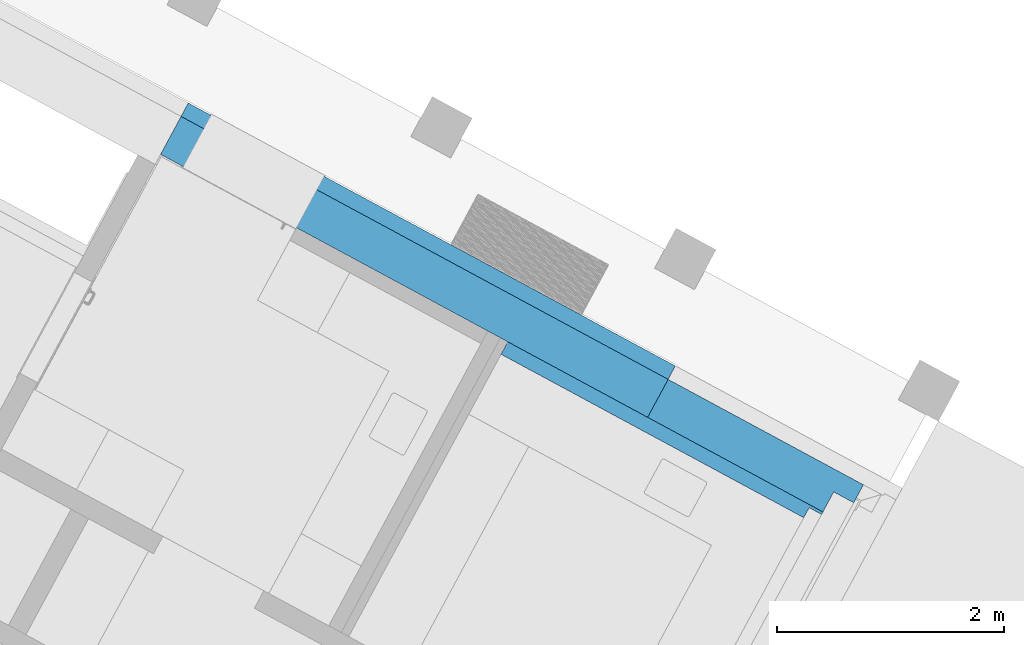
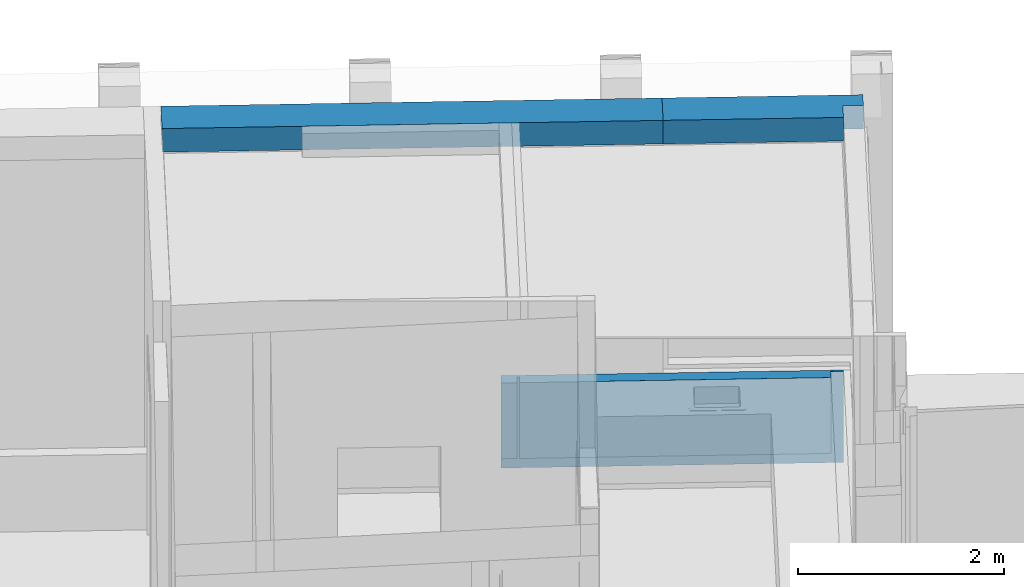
# One storey, part 22 of 52: 3 walls.
"""IFC2X3 building model written with IfcOpenShell, lengths in metres."""

from ifc_helpers import new_model, entity, si_unit, converted_unit, derived_unit, money_unit, direction, frame, origin_with_axes, place, context, subcontext, project, spatial, faceted_brep, material, material_list, type_object, element, save


model = new_model("IFC2X3")

# Units and contexts
model_context = context("Model", 3, precision=1e-05, world=origin_with_axes(), true_north=direction((0.0, 1.0)))
body_context = subcontext(model_context, "Body", "Model", "MODEL_VIEW")
ifc_project = project(units=[si_unit("LENGTHUNIT", "METRE"), si_unit("AREAUNIT", "SQUARE_METRE"), si_unit("VOLUMEUNIT", "CUBIC_METRE"), converted_unit("PLANEANGLEUNIT", "DEGREE", entity("IfcPlaneAngleMeasure", 0.0174532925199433), si_unit("PLANEANGLEUNIT", "RADIAN"), dimensions=[0, 0, 0, 0, 0, 0, 0]), money_unit("EUR"), converted_unit("TIMEUNIT", "Year", entity("IfcTimeMeasure", 31556926.0), si_unit("TIMEUNIT", "SECOND"), dimensions=[0, 0, 1, 0, 0, 0, 0]), si_unit("MASSUNIT", "GRAM", prefix="KILO"), si_unit("THERMODYNAMICTEMPERATUREUNIT", "DEGREE_CELSIUS"), si_unit("LUMINOUSINTENSITYUNIT", "LUMEN"), si_unit("ENERGYUNIT", "JOULE", prefix="MEGA"), derived_unit("THERMALCONDUCTANCEUNIT", [(si_unit("POWERUNIT", "WATT"), 1), (si_unit("LENGTHUNIT", "METRE"), -1), (si_unit("THERMODYNAMICTEMPERATUREUNIT", "KELVIN"), -1)]), derived_unit("SPECIFICHEATCAPACITYUNIT", [(si_unit("ENERGYUNIT", "JOULE"), 1), (si_unit("MASSUNIT", "GRAM", prefix="KILO"), -1), (si_unit("THERMODYNAMICTEMPERATUREUNIT", "KELVIN"), -1)]), derived_unit("MASSDENSITYUNIT", [(si_unit("MASSUNIT", "GRAM", prefix="KILO"), 1), (si_unit("VOLUMEUNIT", "CUBIC_METRE"), -1)])], contexts=[model_context])

# Site, building, storey
site_placement = place(None, frame((-3.949935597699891, 1.740105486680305, 0.0), z_axis=(0.0, 0.0, 1.0), x_axis=(0.8799804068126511, -0.475009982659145, 0.0)))
site = spatial("IfcSite", under=ifc_project, at=site_placement, Name="Gelände", CompositionType="ELEMENT")
building_placement = place(site_placement, origin_with_axes())
building = spatial("IfcBuilding", under=site, at=building_placement, Name="Gebäude", CompositionType="ELEMENT")
storey_placement = place(building_placement, origin_with_axes())
storey = spatial("IfcBuildingStorey", under=building, at=storey_placement, Name="Erdgeschoss", CompositionType="ELEMENT", Elevation=0.0)

# Walls
ifc_material_1 = material(Name="_SIWH - MW Vormauerziegel")
ifc_material_2 = material(Name="_SIWH - Luftschicht vertikal")
ifc_material_3 = material(Name="_SIWH - Dämmung, weich Mineralwolle")
ifc_material_4 = material(Name="_SIWH - Beton, Stahlbeton")
ifc_material_list_1 = material_list([ifc_material_1, ifc_material_2, ifc_material_3, ifc_material_4])
wall_type_1 = type_object("IfcWallType", Name="_SIWH - Sturz Außenwand EG - Stb. 20cm 515 x 280", PredefinedType="NOTDEFINED")
wall_1_placement = place(storey_placement, frame((10.53639656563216, 19.20029480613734, 3.900000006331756), z_axis=(0.0, 0.0, 1.0), x_axis=(0.9999999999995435, -9.555231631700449e-07, 0.0)))
element("IfcWall", 1, at=wall_1_placement, inside=storey, type_object=wall_type_1, material=ifc_material_list_1, Name="A-Wand020", context=body_context, shape_type="Brep", body=[
    faceted_brep([(4.876073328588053, 0.3149999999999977, -0.2000000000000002), (4.876073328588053, 0.3149999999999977, -0.2800000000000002), (0.0, 0.3149999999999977, -0.2800000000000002), (0.0, 0.3149999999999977, -0.2000000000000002), (4.876073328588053, 0.1999999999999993, -0.2000000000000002), (4.876073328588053, 0.1999999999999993, -0.2800000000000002), (0.0, 0.1999999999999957, -0.2800000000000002), (0.0, 0.1999999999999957, -0.2000000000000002)], [[[0, 1, 2, 3]], [[0, 4, 5, 1]], [[1, 5, 6, 2]], [[3, 2, 6, 7]], [[4, 0, 3, 7]], [[5, 4, 7, 6]]]),
    faceted_brep([(4.876073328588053, 0.1800000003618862, -0.1999999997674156), (4.876073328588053, 0.1999999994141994, -0.1999999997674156), (0.0, 0.1999999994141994, -0.1999999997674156), (0.0, 0.1800000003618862, -0.1999999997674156), (4.876073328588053, 0.1800000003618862, -0.2800000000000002), (4.876073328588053, 0.1999999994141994, -0.2800000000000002), (0.0, 0.1999999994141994, -0.2800000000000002), (0.0, 0.1800000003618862, -0.2800000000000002)], [[[0, 1, 2, 3]], [[0, 4, 5, 1]], [[1, 5, 6, 2]], [[3, 2, 6, 7]], [[4, 0, 3, 7]], [[5, 4, 7, 6]]]),
    faceted_brep([(4.876073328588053, 0.1800000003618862, -0.1999999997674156), (4.876073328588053, 0.1799999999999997, -0.2800000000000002), (0.0, 0.1799999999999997, -0.2800000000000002), (0.0, 0.1800000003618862, -0.1999999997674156), (4.876073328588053, 0.1799999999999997, -2.682212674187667e-09), (4.876073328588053, -2.980229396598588e-10, -2.682212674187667e-09), (4.876073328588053, -2.980229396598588e-10, -0.2800000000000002), (0.0, -2.980229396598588e-10, -0.2800000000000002), (0.0, -2.980229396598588e-10, -2.682212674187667e-09), (0.0, 0.1799999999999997, -2.682212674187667e-09)], [[[0, 1, 2, 3]], [[0, 4, 5, 6, 1]], [[1, 6, 7, 2]], [[3, 2, 7, 8, 9]], [[4, 0, 3, 9]], [[5, 4, 9, 8]], [[6, 5, 8, 7]]]),
    faceted_brep([(4.876073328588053, 0.0, 0.0), (4.876073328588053, 0.0, -0.2800000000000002), (0.0, 0.0, -0.2800000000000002), (0.0, 0.0, 0.0), (4.876073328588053, -0.2000000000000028, 0.0), (4.876073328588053, -0.2000000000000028, -0.2800000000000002), (0.0, -0.2000000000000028, -0.2800000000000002), (0.0, -0.2000000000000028, 0.0)], [[[0, 1, 2, 3]], [[0, 4, 5, 1]], [[1, 5, 6, 2]], [[3, 2, 6, 7]], [[4, 0, 3, 7]], [[5, 4, 7, 6]]]),
])
ifc_material_5 = material(Name="_SIWH - Gipskarton")
ifc_material_6 = material(Name="_SIWH - Installationswand, raumhoch")
ifc_material_list_2 = material_list([ifc_material_5, ifc_material_5, ifc_material_6])
wall_type_2 = type_object("IfcWallType", Name="_SIWH - WI | Vorsatz-GK 2-lagig | 12,5cm 125", PredefinedType="NOTDEFINED")
wall_2_placement = place(storey_placement, frame((13.83249488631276, 19.00029165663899, -0.1800000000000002), z_axis=(0.0, 0.0, 1.0), x_axis=(0.9999999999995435, -9.55523173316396e-07, 0.0)))
element("IfcWall", 2, at=wall_2_placement, inside=storey, type_object=wall_type_2, material=ifc_material_list_2, Name="L-Wand035", context=body_context, shape_type="Brep", body=[
    faceted_brep([(3.33498207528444, 0.0, 1.08), (0.0, 0.0, 1.08), (0.0, -0.01249999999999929, 1.08), (3.334982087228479, -0.01249999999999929, 1.08), (3.33498207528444, 0.0, 0.0), (0.0, 0.0, 0.0), (0.0, -0.01249999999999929, 0.0), (3.334982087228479, -0.01249999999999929, 0.0)], [[[0, 1, 2, 3]], [[4, 5, 1, 0]], [[2, 1, 5, 6]], [[3, 2, 6, 7]], [[3, 7, 4, 0]], [[7, 6, 5, 4]]]),
    faceted_brep([(3.334982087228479, -0.01249999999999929, 1.08), (0.0, -0.01249999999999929, 1.08), (0.0, -0.02499999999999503, 1.08), (3.334982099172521, -0.02499999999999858, 1.08), (3.334982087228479, -0.01249999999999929, 0.0), (0.0, -0.01249999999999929, 0.0), (0.0, -0.02499999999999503, 0.0), (3.334982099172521, -0.02499999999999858, 0.0)], [[[0, 1, 2, 3]], [[4, 5, 1, 0]], [[2, 1, 5, 6]], [[3, 2, 6, 7]], [[3, 7, 4, 0]], [[7, 6, 5, 4]]]),
    faceted_brep([(0.1552404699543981, -0.125, 0.1800000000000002), (0.1552403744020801, -0.02499999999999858, 0.1800000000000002), (0.1552403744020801, -0.02499999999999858, 1.08), (0.1552404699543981, -0.125, 1.08), (0.0, -0.02499999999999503, 0.1800000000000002), (0.0, -0.1249999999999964, 0.1800000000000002), (0.0, -0.02499999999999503, 1.08), (0.0, -0.1249999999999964, 1.08)], [[[0, 1, 2, 3]], [[4, 1, 0, 5]], [[1, 4, 6, 2]], [[3, 2, 6, 7]], [[5, 0, 3, 7]], [[4, 5, 7, 6]]]),
    faceted_brep([(3.20998219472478, -0.125, 0.1800000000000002), (3.209982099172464, -0.02499999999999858, 0.1800000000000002), (3.209982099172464, -0.02499999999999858, 1.08), (3.20998219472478, -0.125, 1.08), (0.1802403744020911, -0.02499999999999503, 0.1800000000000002), (0.1802404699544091, -0.1249999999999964, 0.1800000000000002), (0.1802403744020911, -0.02499999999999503, 1.08), (0.1802404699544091, -0.1249999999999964, 1.08)], [[[0, 1, 2, 3]], [[4, 1, 0, 5]], [[1, 4, 6, 2]], [[3, 2, 6, 7]], [[5, 0, 3, 7]], [[4, 5, 7, 6]]]),
])
ifc_material_list_3 = material_list([ifc_material_3, ifc_material_4])
wall_type_3 = type_object("IfcWallType", Name="_SIWH - WA | Stb. 20+WD 18 | 38cm 380", PredefinedType="NOTDEFINED")
wall_3_placement = place(storey_placement, frame((15.41246989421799, 19.20029014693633, 3.620000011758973), z_axis=(0.0, 0.0, 1.0), x_axis=(0.9999999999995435, -9.555231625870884e-07, 0.0)))
element("IfcWall", 3, at=wall_3_placement, inside=storey, type_object=wall_type_3, material=ifc_material_list_3, Name="A-Wand021", context=body_context, shape_type="Brep", body=[
    faceted_brep([(1.955006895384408, 0.1799999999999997, 0.279999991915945), (0.0, 0.1799999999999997, 0.279999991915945), (0.0, 0.0, 0.279999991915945), (1.955007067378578, 0.0, 0.279999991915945), (1.955006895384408, 0.1799999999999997, 0.0), (0.0, 0.1799999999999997, 0.0), (0.0, 0.0, 0.0), (1.955007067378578, 0.0, 0.0)], [[[0, 1, 2, 3]], [[4, 5, 1, 0]], [[2, 1, 5, 6]], [[3, 2, 6, 7]], [[3, 7, 4, 0]], [[7, 6, 5, 4]]]),
    faceted_brep([(1.755007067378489, 0.0, 0.279999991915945), (0.0, 0.0, 0.279999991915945), (0.0, -0.1999999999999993, 0.279999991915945), (1.755007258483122, -0.2000000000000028, 0.279999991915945), (1.755007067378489, 0.0, 0.0), (0.0, 0.0, 0.0), (0.0, -0.1999999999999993, 0.0), (1.755007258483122, -0.2000000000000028, 0.0)], [[[0, 1, 2, 3]], [[4, 5, 1, 0]], [[2, 1, 5, 6]], [[3, 2, 6, 7]], [[3, 7, 4, 0]], [[7, 6, 5, 4]]]),
])

save(model, "model.ifc")
